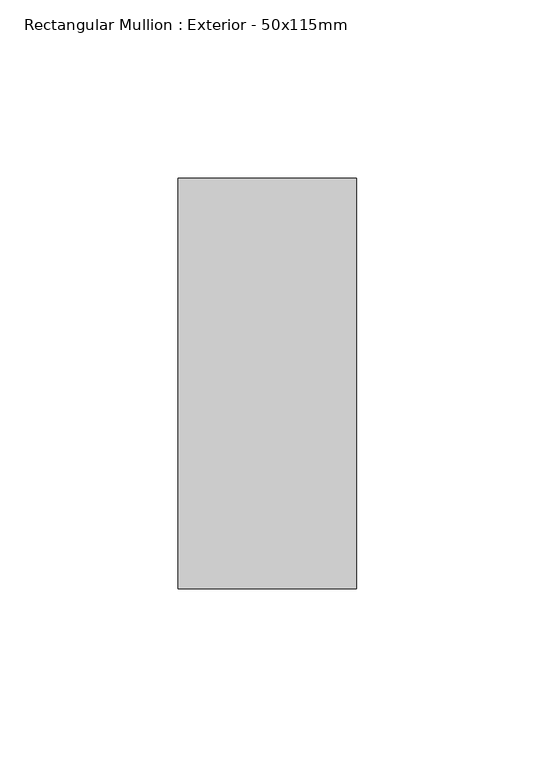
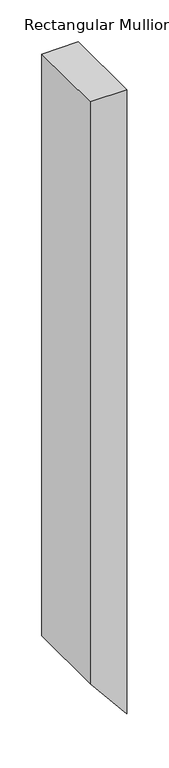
"""IFC4 building model written with IfcOpenShell, lengths in millimetres: member geometry, Rectangular Mullion : Exterior - 50x115mm."""

from ifc_helpers import new_model, si_unit, frame, origin, place, context, project, spatial, polyline, outline, extrude, source, transform, mapped, element, save


def rectangular_mullion_exterior_50x115mm_8fb64012(model_context):
    return source(origin(), model_context, "Body", "SweptSolid", [
        extrude(outline(polyline([(0.0, 0.0), (0.0, -50.0), (-845.4528018, -50.0), (-907.1976596, 0.0), (0.0, 0.0)])), frame((0.0, 0.0, 0.0), z_axis=(0.0, 1.0, 0.0), x_axis=(0.0, 0.0, 1.0)), (0.0, 0.0, 1.0), 115.0),
    ])


if __name__ == "__main__":
    model = new_model("IFC4")
    model_context = context("Model", 3, world=origin())
    ifc_project = project(units=[si_unit("LENGTHUNIT", "METRE", prefix="MILLI")], contexts=[model_context])
    site = spatial("IfcSite", under=ifc_project)
    building = spatial("IfcBuilding", under=site)
    placement = place(None, origin())
    rectangular_mullion_exterior_50x115mm_shape = rectangular_mullion_exterior_50x115mm_8fb64012(model_context)
    element("IfcMember", 1, ObjectType="Rectangular Mullion : Exterior - 50x115mm", at=placement, inside=building, context=model_context, shape_type="MappedRepresentation", body=[
        mapped(rectangular_mullion_exterior_50x115mm_shape, transform((0.0, 0.0, 0.0), x_axis=(1.0, 0.0, 0.0), y_axis=(0.0, 1.0, 0.0), z_axis=(0.0, 0.0, 1.0))),
    ])
    save(model, "model.ifc")
